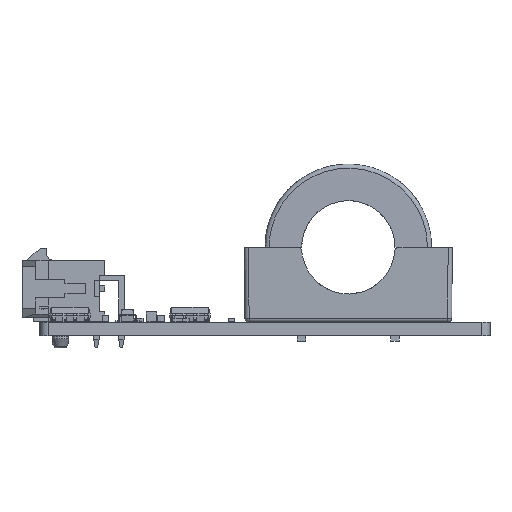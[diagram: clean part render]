
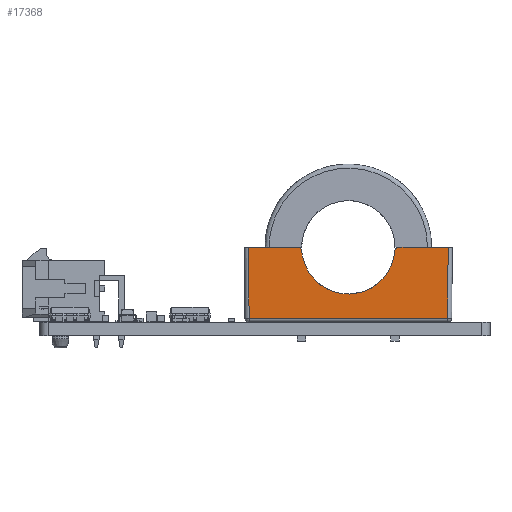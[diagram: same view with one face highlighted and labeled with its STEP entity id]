
A CAD part, left-side view. The second image highlights one B-rep face of the part: STEP entity #17368.
In plain terms, the highlighted planar face has unit normal (-1, 0, -0.009) as drawn and (0, 1, -0.009) by its records, which use the part's own axes.
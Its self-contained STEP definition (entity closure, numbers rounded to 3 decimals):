
#74=ELLIPSE('',#18826,5.6,5.6);
#1016=CIRCLE('',#18721,0.5);
#1057=CIRCLE('',#18823,0.5);
#1977=FACE_OUTER_BOUND('',#2972,.T.);
#2972=EDGE_LOOP('',(#15424,#15425,#15426,#15427,#15428,#15429,#15430,#15431));
#4761=LINE('',#29865,#6657);
#4762=LINE('',#29869,#6658);
#4860=LINE('',#30431,#6756);
#4863=LINE('',#30437,#6759);
#4868=LINE('',#30493,#6764);
#6657=VECTOR('',#23137,1000.);
#6658=VECTOR('',#23142,1000.);
#6756=VECTOR('',#23438,1000.);
#6759=VECTOR('',#23443,1000.);
#6764=VECTOR('',#23470,1000.);
#8165=VERTEX_POINT('',#29834);
#8169=VERTEX_POINT('',#29864);
#8170=VERTEX_POINT('',#29868);
#8173=VERTEX_POINT('',#29876);
#8260=VERTEX_POINT('',#30397);
#8264=VERTEX_POINT('',#30429);
#8266=VERTEX_POINT('',#30435);
#8268=VERTEX_POINT('',#30443);
#10492=EDGE_CURVE('',#8169,#8165,#4761,.T.);
#10494=EDGE_CURVE('',#8170,#8169,#4762,.T.);
#10498=EDGE_CURVE('',#8173,#8170,#1016,.T.);
#10643=EDGE_CURVE('',#8264,#8260,#4860,.T.);
#10646=EDGE_CURVE('',#8266,#8264,#4863,.T.);
#10650=EDGE_CURVE('',#8268,#8266,#1057,.T.);
#10654=EDGE_CURVE('',#8268,#8173,#74,.T.);
#10657=EDGE_CURVE('',#8260,#8165,#4868,.T.);
#15424=ORIENTED_EDGE('',*,*,#10657,.F.);
#15425=ORIENTED_EDGE('',*,*,#10643,.F.);
#15426=ORIENTED_EDGE('',*,*,#10646,.F.);
#15427=ORIENTED_EDGE('',*,*,#10650,.F.);
#15428=ORIENTED_EDGE('',*,*,#10654,.T.);
#15429=ORIENTED_EDGE('',*,*,#10498,.T.);
#15430=ORIENTED_EDGE('',*,*,#10494,.T.);
#15431=ORIENTED_EDGE('',*,*,#10492,.T.);
#16091=PLANE('',#18830);
#17368=ADVANCED_FACE('',(#1977),#16091,.F.);
#18721=AXIS2_PLACEMENT_3D('',#29877,#23149,#23150);
#18823=AXIS2_PLACEMENT_3D('',#30445,#23453,#23454);
#18826=AXIS2_PLACEMENT_3D('',#30487,#23460,#23461);
#18830=AXIS2_PLACEMENT_3D('',#30494,#23471,#23472);
#23137=DIRECTION('',(-0.009,-0.009,-1.));
#23142=DIRECTION('',(1.,0.,0.));
#23149=DIRECTION('center_axis',(0.,1.,
-0.009));
#23150=DIRECTION('ref_axis',(0.,0.009,1.));
#23438=DIRECTION('',(0.009,-0.009,-1.));
#23443=DIRECTION('',(-1.,0.,0.));
#23453=DIRECTION('center_axis',(0.,-1.,
0.009));
#23454=DIRECTION('ref_axis',(0.,0.009,1.));
#23460=DIRECTION('center_axis',(0.,-1.,
0.009));
#23461=DIRECTION('ref_axis',(0.,-0.009,
-1.));
#23470=DIRECTION('',(1.,0.,0.));
#23471=DIRECTION('center_axis',(0.,-1.,
0.009));
#23472=DIRECTION('ref_axis',(0.,-0.009,
-1.));
#29834=CARTESIAN_POINT('',(11.904,8.004,-8.504));
#29864=CARTESIAN_POINT('',(11.979,8.079,0.));
#29865=CARTESIAN_POINT('',(11.979,8.079,0.));
#29868=CARTESIAN_POINT('',(6.079,8.079,0.));
#29869=CARTESIAN_POINT('',(0.,8.079,0.));
#29876=CARTESIAN_POINT('',(5.581,8.075,-0.459));
#29877=CARTESIAN_POINT('Origin',(6.079,8.074,-0.5));
#30397=CARTESIAN_POINT('',(-11.904,8.004,-8.504));
#30429=CARTESIAN_POINT('',(-11.979,8.079,0.));
#30431=CARTESIAN_POINT('',(-11.979,8.079,0.));
#30435=CARTESIAN_POINT('',(-6.079,8.079,0.));
#30437=CARTESIAN_POINT('',(0.,8.079,0.));
#30443=CARTESIAN_POINT('',(-5.581,8.075,-0.459));
#30445=CARTESIAN_POINT('Origin',(-6.079,8.074,-0.5));
#30487=CARTESIAN_POINT('Origin',(0.,8.079,
0.));
#30493=CARTESIAN_POINT('',(0.,8.004,-8.504));
#30494=CARTESIAN_POINT('Origin',(0.,8.,
-9.));
